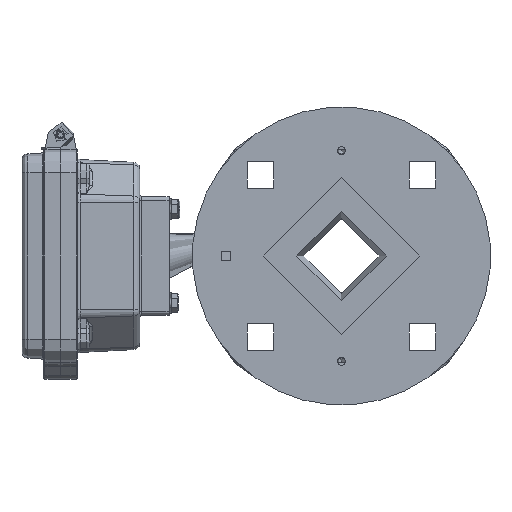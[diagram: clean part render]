
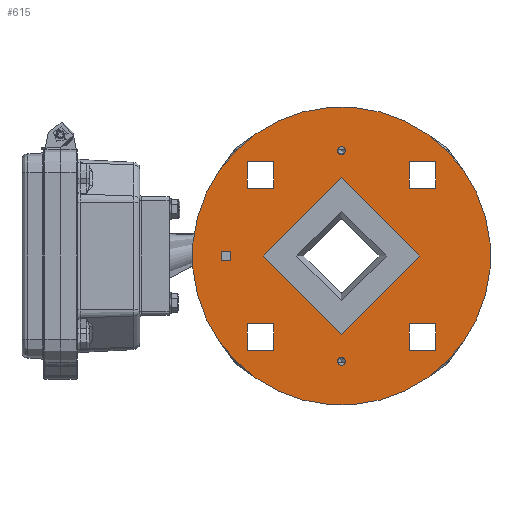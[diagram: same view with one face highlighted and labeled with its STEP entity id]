
A CAD part, left-side view. The second image highlights one B-rep face of the part: STEP entity #615.
In plain terms, the highlighted planar face has unit normal (-1, 0, 0).
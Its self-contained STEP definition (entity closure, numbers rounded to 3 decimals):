
#615=ADVANCED_FACE('',(#17164,#17166,#17168,#17170,#17172,#17174,#17176,#17178,#17180),
#17182,.T.);
#17164=FACE_BOUND('',#17165,.T.);
#17165=EDGE_LOOP('',(#30769));
#17166=FACE_BOUND('',#17167,.T.);
#17167=EDGE_LOOP('',(#30770));
#17168=FACE_BOUND('',#17169,.T.);
#17169=EDGE_LOOP('',(#30771));
#17170=FACE_BOUND('',#17171,.T.);
#17171=EDGE_LOOP('',(#30772));
#17172=FACE_BOUND('',#17173,.T.);
#17173=EDGE_LOOP('',(#30773));
#17174=FACE_BOUND('',#17175,.T.);
#17175=EDGE_LOOP('',(#30774));
#17176=FACE_BOUND('',#17177,.T.);
#17177=EDGE_LOOP('',(#30775));
#17178=FACE_BOUND('',#17179,.T.);
#17179=EDGE_LOOP('',(#30776));
#17180=FACE_BOUND('',#17181,.T.);
#17181=EDGE_LOOP('',(#30777));
#17182=PLANE('',#17183);
#17183=AXIS2_PLACEMENT_3D('',#17184,#17185,#17186);
#17184=CARTESIAN_POINT('',(-91.,-17.437,0.));
#17185=DIRECTION('',(-1.,0.,0.));
#17186=DIRECTION('',(0.,0.707,-0.707));
#30769=ORIENTED_EDGE('',*,*,#36521,.T.);
#30770=ORIENTED_EDGE('',*,*,#36522,.T.);
#30771=ORIENTED_EDGE('',*,*,#36504,.T.);
#30772=ORIENTED_EDGE('',*,*,#36505,.T.);
#30773=ORIENTED_EDGE('',*,*,#36506,.T.);
#30774=ORIENTED_EDGE('',*,*,#36523,.F.);
#30775=ORIENTED_EDGE('',*,*,#36507,.T.);
#30776=ORIENTED_EDGE('',*,*,#36524,.T.);
#30777=ORIENTED_EDGE('',*,*,#36509,.T.);
#36504=EDGE_CURVE('',#39425,#39425,#39426,.T.);
#36505=EDGE_CURVE('',#39427,#39427,#39428,.T.);
#36506=EDGE_CURVE('',#39429,#39429,#39430,.T.);
#36507=EDGE_CURVE('',#39431,#39431,#39432,.T.);
#36509=EDGE_CURVE('',#39435,#39435,#39436,.F.);
#36521=EDGE_CURVE('',#39459,#39459,#39460,.T.);
#36522=EDGE_CURVE('',#39461,#39461,#39462,.F.);
#36523=EDGE_CURVE('',#39463,#39463,#39464,.T.);
#36524=EDGE_CURVE('',#39465,#39465,#39466,.F.);
#39425=VERTEX_POINT('',#44619);
#39426=CIRCLE('',#44620,9.);
#39427=VERTEX_POINT('',#44624);
#39428=CIRCLE('',#44625,9.);
#39429=VERTEX_POINT('',#44629);
#39430=CIRCLE('',#44630,9.);
#39431=VERTEX_POINT('',#44634);
#39432=CIRCLE('',#44635,9.);
#39435=VERTEX_POINT('',#44770);
#39436=CIRCLE('',#44771,3.15);
#39459=VERTEX_POINT('',#44998);
#39460=CIRCLE('',#44999,71.5);
#39461=VERTEX_POINT('',#45003);
#39462=CIRCLE('',#45004,1.85);
#39463=VERTEX_POINT('',#45008);
#39464=CIRCLE('',#45009,37.5);
#39465=VERTEX_POINT('',#45013);
#39466=CIRCLE('',#45014,1.85);
#44619=CARTESIAN_POINT('',(-91.,27.818,32.527));
#44620=AXIS2_PLACEMENT_3D('',#44621,#44622,#44623);
#44621=CARTESIAN_POINT('',(-91.,21.454,38.891));
#44622=DIRECTION('',(1.,0.,0.));
#44623=DIRECTION('',(0.,0.707,-0.707));
#44624=CARTESIAN_POINT('',(-91.,-49.963,45.255));
#44625=AXIS2_PLACEMENT_3D('',#44626,#44627,#44628);
#44626=CARTESIAN_POINT('',(-91.,-56.327,38.891));
#44627=DIRECTION('',(1.,0.,0.));
#44628=DIRECTION('',(0.,0.707,0.707));
#44629=CARTESIAN_POINT('',(-91.,-62.691,-32.527));
#44630=AXIS2_PLACEMENT_3D('',#44631,#44632,#44633);
#44631=CARTESIAN_POINT('',(-91.,-56.327,-38.891));
#44632=DIRECTION('',(1.,0.,0.));
#44633=DIRECTION('',(0.,-0.707,0.707));
#44634=CARTESIAN_POINT('',(-91.,15.09,-45.255));
#44635=AXIS2_PLACEMENT_3D('',#44636,#44637,#44638);
#44636=CARTESIAN_POINT('',(-91.,21.454,-38.891));
#44637=DIRECTION('',(1.,0.,0.));
#44638=DIRECTION('',(0.,-0.707,-0.707));
#44770=CARTESIAN_POINT('',(-91.,35.836,-2.227));
#44771=AXIS2_PLACEMENT_3D('',#44772,#44773,#44774);
#44772=CARTESIAN_POINT('',(-91.,38.063,0.));
#44773=DIRECTION('',(-1.,0.,0.));
#44774=DIRECTION('',(0.,-0.707,-0.707));
#44998=CARTESIAN_POINT('',(-91.,33.122,-50.558));
#44999=AXIS2_PLACEMENT_3D('',#45000,#45001,#45002);
#45000=CARTESIAN_POINT('',(-91.,-17.437,0.));
#45001=DIRECTION('',(-1.,0.,0.));
#45002=DIRECTION('',(0.,0.707,-0.707));
#45003=CARTESIAN_POINT('',(-91.,-16.128,-49.192));
#45004=AXIS2_PLACEMENT_3D('',#45005,#45006,#45007);
#45005=CARTESIAN_POINT('',(-91.,-17.437,-50.5));
#45006=DIRECTION('',(-1.,0.,0.));
#45007=DIRECTION('',(0.,0.707,0.707));
#45008=CARTESIAN_POINT('',(-91.,20.063,0.));
#45009=AXIS2_PLACEMENT_3D('',#45010,#45011,#45012);
#45010=CARTESIAN_POINT('',(-91.,-17.437,0.));
#45011=DIRECTION('',(-1.,0.,0.));
#45012=DIRECTION('',(0.,0.707,-0.707));
#45013=CARTESIAN_POINT('',(-91.,-18.745,49.192));
#45014=AXIS2_PLACEMENT_3D('',#45015,#45016,#45017);
#45015=CARTESIAN_POINT('',(-91.,-17.437,50.5));
#45016=DIRECTION('',(-1.,0.,0.));
#45017=DIRECTION('',(0.,-0.707,-0.707));
